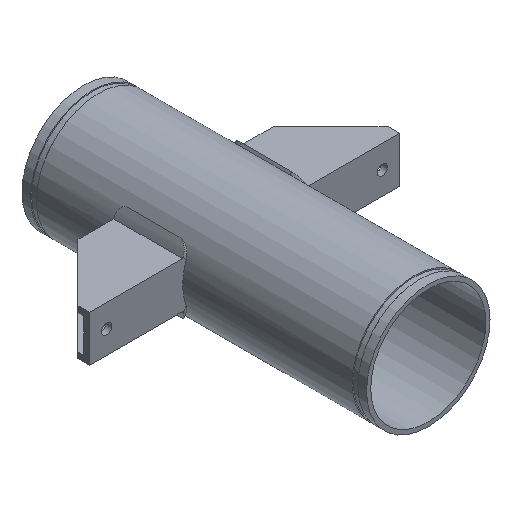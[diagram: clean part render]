
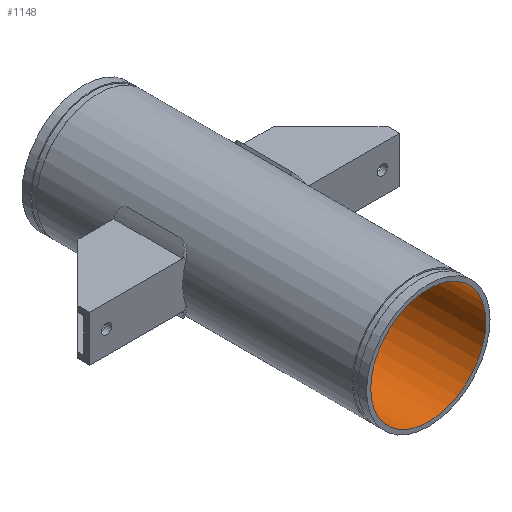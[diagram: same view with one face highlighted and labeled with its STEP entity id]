
A CAD part, isometric view. The second image highlights one B-rep face of the part: STEP entity #1148.
In plain terms, the highlighted cylindrical face has radius 127.254 mm (diameter 254.508 mm), a full revolution.
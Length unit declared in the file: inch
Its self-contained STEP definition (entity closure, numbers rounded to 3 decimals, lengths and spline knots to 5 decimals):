
#116=CIRCLE('',#1251,5.01);
#117=CIRCLE('',#1252,5.01);
#118=CIRCLE('',#1253,5.01);
#119=CIRCLE('',#1254,5.01);
#172=FACE_OUTER_BOUND('',#233,.T.);
#233=EDGE_LOOP('',(#927,#928,#929,#930,#931,#932));
#339=LINE('',#2150,#432);
#432=VECTOR('',#1513,5.01);
#547=VERTEX_POINT('',#2146);
#548=VERTEX_POINT('',#2147);
#549=VERTEX_POINT('',#2149);
#550=VERTEX_POINT('',#2151);
#689=EDGE_CURVE('',#547,#548,#116,.T.);
#690=EDGE_CURVE('',#548,#549,#339,.T.);
#691=EDGE_CURVE('',#550,#549,#117,.T.);
#692=EDGE_CURVE('',#549,#550,#118,.T.);
#693=EDGE_CURVE('',#548,#547,#119,.T.);
#927=ORIENTED_EDGE('',*,*,#689,.T.);
#928=ORIENTED_EDGE('',*,*,#690,.T.);
#929=ORIENTED_EDGE('',*,*,#691,.F.);
#930=ORIENTED_EDGE('',*,*,#692,.F.);
#931=ORIENTED_EDGE('',*,*,#690,.F.);
#932=ORIENTED_EDGE('',*,*,#693,.T.);
#1047=CYLINDRICAL_SURFACE('',#1250,5.01);
#1148=ADVANCED_FACE('',(#172),#1047,.F.);
#1250=AXIS2_PLACEMENT_3D('',#2145,#1509,#1510);
#1251=AXIS2_PLACEMENT_3D('',#2148,#1511,#1512);
#1252=AXIS2_PLACEMENT_3D('',#2152,#1514,#1515);
#1253=AXIS2_PLACEMENT_3D('',#2153,#1516,#1517);
#1254=AXIS2_PLACEMENT_3D('',#2154,#1518,#1519);
#1509=DIRECTION('center_axis',(0.,-1.,0.));
#1510=DIRECTION('ref_axis',(1.,0.,0.));
#1511=DIRECTION('center_axis',(0.,-1.,0.));
#1512=DIRECTION('ref_axis',(1.,0.,0.));
#1513=DIRECTION('',(0.,1.,0.));
#1514=DIRECTION('center_axis',(0.,-1.,0.));
#1515=DIRECTION('ref_axis',(1.,0.,0.));
#1516=DIRECTION('center_axis',(0.,-1.,0.));
#1517=DIRECTION('ref_axis',(1.,0.,0.));
#1518=DIRECTION('center_axis',(0.,-1.,0.));
#1519=DIRECTION('ref_axis',(1.,0.,0.));
#2145=CARTESIAN_POINT('Origin',(0.,0.,0.));
#2146=CARTESIAN_POINT('',(5.01,-15.,0.));
#2147=CARTESIAN_POINT('',(-5.01,-15.,0.));
#2148=CARTESIAN_POINT('Origin',(0.,-15.,0.));
#2149=CARTESIAN_POINT('',(-5.01,15.,0.));
#2150=CARTESIAN_POINT('',(-5.01,0.,0.));
#2151=CARTESIAN_POINT('',(5.01,15.,0.));
#2152=CARTESIAN_POINT('Origin',(0.,15.,0.));
#2153=CARTESIAN_POINT('Origin',(0.,15.,0.));
#2154=CARTESIAN_POINT('Origin',(0.,-15.,0.));
